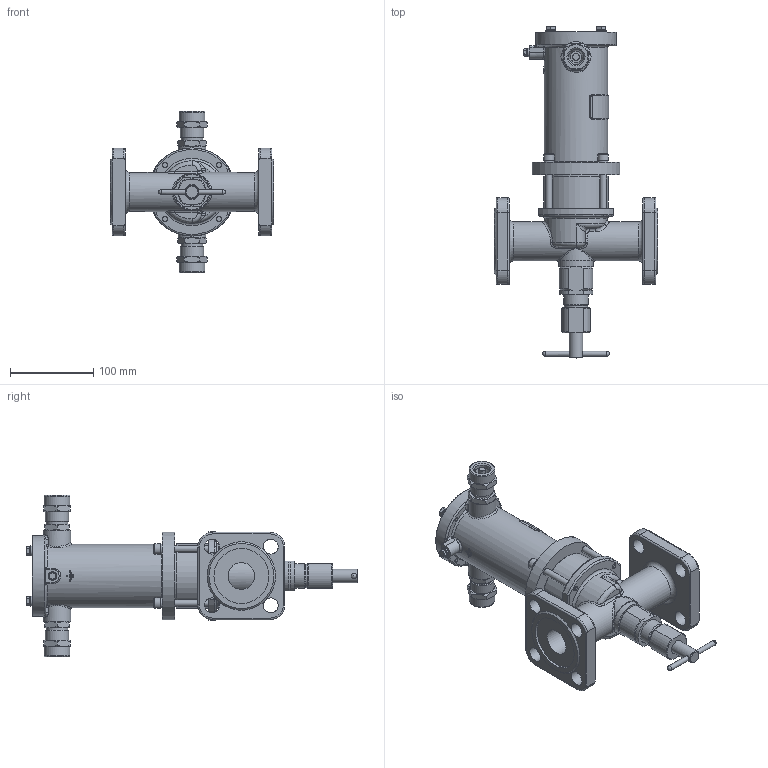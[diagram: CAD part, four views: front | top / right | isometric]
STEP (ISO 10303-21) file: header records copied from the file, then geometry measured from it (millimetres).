
FILE_DESCRIPTION(('STEP AP203'), '1');
FILE_NAME('ÑÅÍÑ DN32PN25-Â-ÍÎ.stp', '2018-09-19T08:52:30', ('Îðëîâ Å.Â.'), ('ÎÎÎ ÍÏÏ Ñåíñîð'), 'ASCON STEP Converter 1.3', 'Kompas 3D', '');
FILE_SCHEMA(('CONFIG_CONTROL_DESIGN','SUPPORT_RESOURCE_SCHEMA'));
Length unit declared in the file: millimetre
Products named in the file (1): 87
Bounding box: 196 x 398.7 x 194 mm (x, y, z)
Volume: 1188997.3 mm3; surface area: 336582 mm2
Topology: 3 solids, 19 shells, 1981 faces, 5240 edges, 3396 vertices
Faces by surface type: cylinder 1011, plane 722, cone 128, torus 52, bspline 50, extrusion 16, sphere 2
Full cylindrical faces by diameter (mm): 3.5 x2, 4.134 x1, 4.917 x4, 5 x1, 6 x13, 6.2 x1, 6.3 x4, 6.5 x4, 8 x8, 9 x4, 10 x1, 12 x4, 13 x6, 16 x3, 17 x2, 18 x9, 18.632 x2, 19.9 x1, 20 x2, 21 x1, 22 x2, 22.376 x2, 23 x1, 23.5 x2, 24 x2, 24.5 x2, 26 x4, 26.376 x2, 27.8 x1, 28 x3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
Entity records: 76069 total; most frequent: CARTESIAN_POINT 25969, DIRECTION 10843, ORIENTED_EDGE 10406, EDGE_CURVE 5203, AXIS2_PLACEMENT_3D 4169, VERTEX_POINT 3388, VECTOR 2505, LINE 2489
